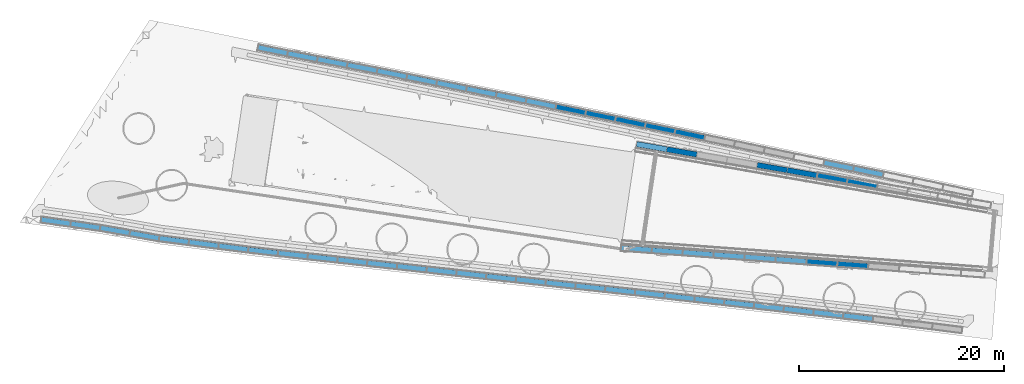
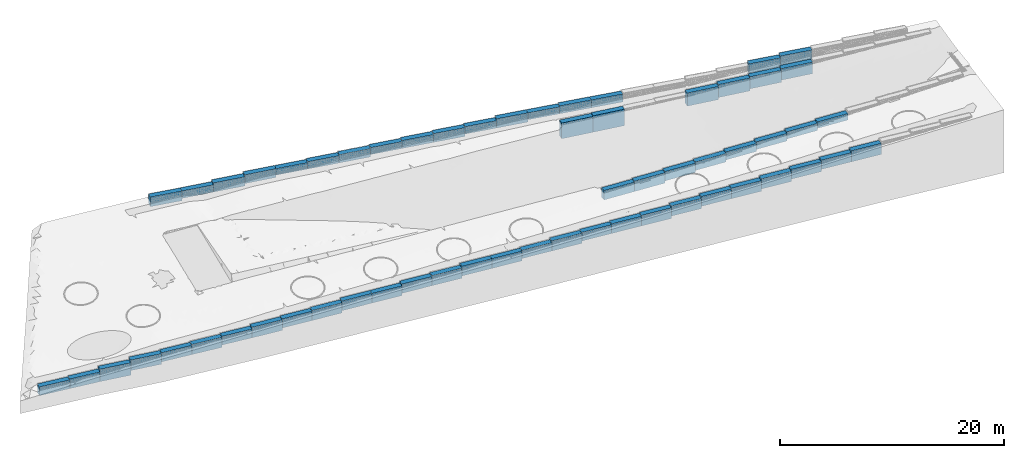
# Not in any storey, part 5 of 46: 59 walls.
"""IFC4 model written with IfcOpenShell, lengths in metres."""

from ifc_helpers import new_model, si_unit, direction, frame, origin_with_axes, place, context, subcontext, project, spatial, polyline, outline, extrude, material, element, save


model = new_model("IFC4")

# Units and contexts
model_context = context("Model", 3, precision=1e-05, world=origin_with_axes(), true_north=direction((0.0, 1.0)))
body_context = subcontext(model_context, "Body", "Model", "MODEL_VIEW")
ifc_project = project(units=[si_unit("VOLUMEUNIT", "CUBIC_METRE"), si_unit("LENGTHUNIT", "METRE"), si_unit("AREAUNIT", "SQUARE_METRE")], contexts=[model_context])

# Site
site_placement = place(None, origin_with_axes())
site = spatial("IfcSite", under=ifc_project, at=site_placement, Name="Lares · Rua das Mercês · artigo 4771")

# Walls
ifc_material = material(Name="Gabião · enchimento", Category="stone")
wall_1_placement = place(site_placement, frame((0.0, 0.0, 13.43), z_axis=(0.0, 0.0, 1.0), x_axis=(1.0, -1.03767253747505e-17, 0.0)))
element("IfcWall", 1, at=wall_1_placement, inside=site, material=ifc_material, Name="Acesso · gabião -1 0.0 · núcleo de pedra", ObjectType="Acesso · gabião -1 0.0 · núcleo de pedra", PredefinedType="USERDEFINED", context=body_context, shape_type="SweptSolid", body=[
    extrude(outline(polyline([(49.5509177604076, 2.43377645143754), (49.5120257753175, 1.90520534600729), (46.4964454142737, 2.12709016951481), (46.5353373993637, 2.65566127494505), (49.5509177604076, 2.43377645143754)])), origin_with_axes(), (0.0, 0.0, 1.0), 1.01900584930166),
])
wall_2_placement = place(site_placement, frame((0.0, 0.0, 13.43), z_axis=(0.0, 0.0, 1.0), x_axis=(1.0, -1.03767253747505e-17, 0.0)))
element("IfcWall", 2, at=wall_2_placement, inside=site, material=ifc_material, Name="Acesso · gabião -1 3.0 · núcleo de pedra", ObjectType="Acesso · gabião -1 3.0 · núcleo de pedra", PredefinedType="USERDEFINED", context=body_context, shape_type="SweptSolid", body=[
    extrude(outline(polyline([(52.5666966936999, 2.2118721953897), (52.5278038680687, 1.6833011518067), (49.5120253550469, 1.90520537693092), (49.5509181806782, 2.43377642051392), (52.5666966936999, 2.2118721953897)])), origin_with_axes(), (0.0, 0.0, 1.0), 1.12563008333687),
])
wall_3_placement = place(site_placement, frame((0.0, 0.0, 13.6644580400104), z_axis=(0.0, 0.0, 1.0), x_axis=(1.0, -1.03767253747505e-17, 0.0)))
element("IfcWall", 3, at=wall_3_placement, inside=site, material=ifc_material, Name="Acesso · gabião -1 6.0 · núcleo de pedra", ObjectType="Acesso · gabião -1 6.0 · núcleo de pedra", PredefinedType="USERDEFINED", context=body_context, shape_type="SweptSolid", body=[
    extrude(outline(polyline([(55.5826966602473, 1.98994747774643), (55.5438031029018, 1.46137648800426), (52.5278035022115, 1.68330117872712), (52.566697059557, 2.21187216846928), (55.5826966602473, 1.98994747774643)])), origin_with_axes(), (0.0, 0.0, 1.0), 1.01398849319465),
])
wall_4_placement = place(site_placement, frame((0.0, 0.0, 13.8878321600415), z_axis=(0.0, 0.0, 1.0), x_axis=(1.0, -1.03767253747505e-17, 0.0)))
element("IfcWall", 4, at=wall_4_placement, inside=site, material=ifc_material, Name="Acesso · gabião -1 9.0 · núcleo de pedra", ObjectType="Acesso · gabião -1 9.0 · núcleo de pedra", PredefinedType="USERDEFINED", context=body_context, shape_type="SweptSolid", body=[
    extrude(outline(polyline([(58.5989442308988, 1.76800126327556), (58.560050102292, 1.23943031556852), (55.5438028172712, 1.46137650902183), (55.582696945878, 1.98994745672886), (58.5989442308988, 1.76800126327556)])), origin_with_axes(), (0.0, 0.0, 1.0), 0.915418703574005),
])
wall_5_placement = place(site_placement, frame((0.0, 0.0, 14.1112062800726), z_axis=(0.0, 0.0, 1.0), x_axis=(1.0, -1.03767253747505e-17, 0.0)))
element("IfcWall", 5, at=wall_5_placement, inside=site, material=ifc_material, Name="Acesso · gabião -1 12.0 · núcleo de pedra", ObjectType="Acesso · gabião -1 12.0 · núcleo de pedra", PredefinedType="USERDEFINED", context=body_context, shape_type="SweptSolid", body=[
    extrude(outline(polyline([(61.615470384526, 1.54603259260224), (61.5765759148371, 1.01746166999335), (58.5600499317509, 1.23943032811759), (58.5989444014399, 1.76800125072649), (61.615470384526, 1.54603259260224)])), origin_with_axes(), (0.0, 0.0, 1.0), 0.866037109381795),
])
wall_6_placement = place(site_placement, frame((0.0, 0.0, 14.3345804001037), z_axis=(0.0, 0.0, 1.0), x_axis=(1.0, -1.03767253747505e-17, 0.0)))
element("IfcWall", 6, at=wall_6_placement, inside=site, material=ifc_material, Name="Acesso · gabião -1 15.0 · núcleo de pedra", ObjectType="Acesso · gabião -1 15.0 · núcleo de pedra", PredefinedType="USERDEFINED", context=body_context, shape_type="SweptSolid", body=[
    extrude(outline(polyline([(64.6323114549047, 1.32404065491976), (64.5934169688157, 0.795469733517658), (61.576575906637, 1.01746167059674), (61.6154703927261, 1.54603259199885), (64.6323114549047, 1.32404065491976)])), origin_with_axes(), (0.0, 0.0, 1.0), 0.817839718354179),
])
wall_7_placement = place(site_placement, frame((0.0, 0.0, 14.5579545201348), z_axis=(0.0, 0.0, 1.0), x_axis=(1.0, -1.03767253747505e-17, 0.0)))
element("IfcWall", 7, at=wall_7_placement, inside=site, material=ifc_material, Name="Acesso · gabião -1 18.0 · núcleo de pedra", ObjectType="Acesso · gabião -1 18.0 · núcleo de pedra", PredefinedType="USERDEFINED", context=body_context, shape_type="SweptSolid", body=[
    extrude(outline(polyline([(67.6495103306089, 1.10202489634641), (67.6106162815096, 0.573453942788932), (64.5934171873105, 0.795469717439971), (64.6323112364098, 1.32404067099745), (67.6495103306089, 1.10202489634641)])), origin_with_axes(), (0.0, 0.0, 1.0), 0.769663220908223),
])
wall_8_placement = place(site_placement, frame((0.0, 0.0, 14.7813286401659), z_axis=(0.0, 0.0, 1.0), x_axis=(1.0, -1.03767253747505e-17, 0.0)))
element("IfcWall", 8, at=wall_8_placement, inside=site, material=ifc_material, Name="Acesso · gabião -1 21.0 · núcleo de pedra", ObjectType="Acesso · gabião -1 21.0 · núcleo de pedra", PredefinedType="USERDEFINED", context=body_context, shape_type="SweptSolid", body=[
    extrude(outline(polyline([(70.6671179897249, 0.879985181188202), (70.6282250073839, 0.3514141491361), (67.6106168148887, 0.57345390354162), (67.6495097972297, 1.10202493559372), (70.6671179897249, 0.879985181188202)])), origin_with_axes(), (0.0, 0.0, 1.0), 0.700067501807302),
])
wall_9_placement = place(site_placement, frame((0.0, 0.0, 13.43), z_axis=(0.0, 0.0, 1.0), x_axis=(1.0, -1.03767253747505e-17, 0.0)))
element("IfcWall", 9, at=wall_9_placement, inside=site, material=ifc_material, Name="Acesso · gabião 1 0.0 · núcleo de pedra", ObjectType="Acesso · gabião 1 0.0 · núcleo de pedra", PredefinedType="USERDEFINED", context=body_context, shape_type="SweptSolid", body=[
    extrude(outline(polyline([(51.0143480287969, 12.2692739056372), (50.9236249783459, 11.7470964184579), (47.9840982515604, 12.2578094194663), (48.0748213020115, 12.7799869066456), (51.0143480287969, 12.2692739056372)])), origin_with_axes(), (0.0, 0.0, 1.0), 1.71673606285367),
])
wall_10_placement = place(site_placement, frame((0.0, 0.0, 13.43), z_axis=(0.0, 0.0, 1.0), x_axis=(1.0, -1.03767253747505e-17, 0.0)))
element("IfcWall", 10, at=wall_10_placement, inside=site, material=ifc_material, Name="Acesso · gabião 1 3.0 · núcleo de pedra", ObjectType="Acesso · gabião 1 3.0 · núcleo de pedra", PredefinedType="USERDEFINED", context=body_context, shape_type="SweptSolid", body=[
    extrude(outline(polyline([(53.953677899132, 11.7585800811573), (53.8629522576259, 11.2364030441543), (50.9236236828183, 11.747096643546), (51.0143493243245, 12.2692736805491), (53.953677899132, 11.7585800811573)])), origin_with_axes(), (0.0, 0.0, 1.0), 1.78875919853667),
])
wall_11_placement = place(site_placement, frame((0.0, 0.0, 14.1112062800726), z_axis=(0.0, 0.0, 1.0), x_axis=(1.0, -1.03767253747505e-17, 0.0)))
element("IfcWall", 11, at=wall_11_placement, inside=site, material=ifc_material, Name="Acesso · gabião 1 12.0 · núcleo de pedra", ObjectType="Acesso · gabião 1 12.0 · núcleo de pedra", PredefinedType="USERDEFINED", context=body_context, shape_type="SweptSolid", body=[
    extrude(outline(polyline([(62.7702319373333, 10.2266251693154), (62.6794950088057, 9.70445009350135), (59.7409139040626, 10.2150792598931), (59.8316508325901, 10.7372543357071), (62.7702319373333, 10.2266251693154)])), origin_with_axes(), (0.0, 0.0, 1.0), 1.42587664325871),
])
wall_12_placement = place(site_placement, frame((0.0, 0.0, 14.3345804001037), z_axis=(0.0, 0.0, 1.0), x_axis=(1.0, -1.03767253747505e-17, 0.0)))
element("IfcWall", 12, at=wall_12_placement, inside=site, material=ifc_material, Name="Acesso · gabião 1 15.0 · núcleo de pedra", ObjectType="Acesso · gabião 1 15.0 · núcleo de pedra", PredefinedType="USERDEFINED", context=body_context, shape_type="SweptSolid", body=[
    extrude(outline(polyline([(65.708500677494, 9.71601881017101), (65.6177583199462, 9.193844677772), (62.6794922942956, 9.70445056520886), (62.7702346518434, 10.2266246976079), (65.708500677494, 9.71601881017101)])), origin_with_axes(), (0.0, 0.0, 1.0), 1.40283963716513),
])
wall_13_placement = place(site_placement, frame((0.0, 0.0, 14.5579545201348), z_axis=(0.0, 0.0, 1.0), x_axis=(1.0, -1.03767253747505e-17, 0.0)))
element("IfcWall", 13, at=wall_13_placement, inside=site, material=ifc_material, Name="Acesso · gabião 1 18.0 · núcleo de pedra", ObjectType="Acesso · gabião 1 18.0 · núcleo de pedra", PredefinedType="USERDEFINED", context=body_context, shape_type="SweptSolid", body=[
    extrude(outline(polyline([(68.6464119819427, 9.20543618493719), (68.555663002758, 8.68326320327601), (65.6177550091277, 9.19384525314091), (65.7085039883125, 9.71601823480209), (68.6464119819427, 9.20543618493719)])), origin_with_axes(), (0.0, 0.0, 1.0), 1.30621625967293),
])
wall_14_placement = place(site_placement, frame((0.0, 0.0, 14.7813286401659), z_axis=(0.0, 0.0, 1.0), x_axis=(1.0, -1.03767253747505e-17, 0.0)))
element("IfcWall", 14, at=wall_14_placement, inside=site, material=ifc_material, Name="Acesso · gabião 1 21.0 · núcleo de pedra", ObjectType="Acesso · gabião 1 21.0 · núcleo de pedra", PredefinedType="USERDEFINED", context=body_context, shape_type="SweptSolid", body=[
    extrude(outline(polyline([(71.5839149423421, 8.69487740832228), (71.4931578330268, 8.17270583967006), (68.5556589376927, 8.68326390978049), (68.6464160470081, 9.20543547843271), (71.5839149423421, 8.69487740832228)])), origin_with_axes(), (0.0, 0.0, 1.0), 1.25118277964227),
])
wall_15_placement = place(site_placement, frame((0.0, 0.0, 13.25), z_axis=(0.0, 0.0, 1.0), x_axis=(1.0, -1.03767253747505e-17, 0.0)))
element("IfcWall", 15, at=wall_15_placement, inside=site, material=ifc_material, Name="Limite north · gabião 4 · núcleo de pedra", ObjectType="Limite north · gabião 4 · núcleo de pedra", PredefinedType="USERDEFINED", context=body_context, shape_type="SweptSolid", body=[
    extrude(outline(polyline([(13.9459810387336, 21.6283738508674), (14.0549092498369, 21.6074246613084), (13.954813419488, 21.0869625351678), (13.8442172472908, 21.1082325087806), (13.8408855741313, 21.1088954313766), (11.0468891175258, 21.6834743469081), (11.1536482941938, 22.2026106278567), (13.9459810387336, 21.6283738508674)])), origin_with_axes(), (0.0, 0.0, 1.0), 1.05),
])
wall_16_placement = place(site_placement, frame((0.0, 0.0, 13.5), z_axis=(0.0, 0.0, 1.0), x_axis=(1.0, -1.03767253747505e-17, 0.0)))
element("IfcWall", 16, at=wall_16_placement, inside=site, material=ifc_material, Name="Limite north · gabião 5 · núcleo de pedra", ObjectType="Limite north · gabião 5 · núcleo de pedra", PredefinedType="USERDEFINED", context=body_context, shape_type="SweptSolid", body=[
    extrude(outline(polyline([(16.9666375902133, 21.0474379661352), (16.8665417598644, 20.5269758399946), (13.954813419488, 21.0869625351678), (14.0549092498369, 21.6074246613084), (16.9666375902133, 21.0474379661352)])), origin_with_axes(), (0.0, 0.0, 1.0), 0.800000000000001),
])
wall_17_placement = place(site_placement, frame((0.0, 0.0, 13.5), z_axis=(0.0, 0.0, 1.0), x_axis=(1.0, -1.03767253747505e-17, 0.0)))
element("IfcWall", 17, at=wall_17_placement, inside=site, material=ifc_material, Name="Limite north · gabião 6 · núcleo de pedra", ObjectType="Limite north · gabião 6 · núcleo de pedra", PredefinedType="USERDEFINED", context=body_context, shape_type="SweptSolid", body=[
    extrude(outline(polyline([(19.8783659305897, 20.487451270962), (19.7782701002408, 19.9669891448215), (16.8665417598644, 20.5269758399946), (16.9666375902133, 21.0474379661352), (19.8783659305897, 20.487451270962)])), origin_with_axes(), (0.0, 0.0, 1.0), 1.0),
])
wall_18_placement = place(site_placement, frame((0.0, 0.0, 13.75), z_axis=(0.0, 0.0, 1.0), x_axis=(1.0, -1.03767253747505e-17, 0.0)))
element("IfcWall", 18, at=wall_18_placement, inside=site, material=ifc_material, Name="Limite north · gabião 7 · núcleo de pedra", ObjectType="Limite north · gabião 7 · núcleo de pedra", PredefinedType="USERDEFINED", context=body_context, shape_type="SweptSolid", body=[
    extrude(outline(polyline([(21.9983013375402, 20.0797430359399), (22.0008751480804, 20.0792348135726), (22.7911217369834, 19.9191251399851), (22.6858782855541, 19.3996794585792), (21.896917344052, 19.5595286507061), (19.7782701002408, 19.9669891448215), (19.8783659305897, 20.487451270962), (21.9983013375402, 20.0797430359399)])), origin_with_axes(), (0.0, 0.0, 1.0), 0.950000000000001),
])
wall_19_placement = place(site_placement, frame((0.0, 0.0, 14.0), z_axis=(0.0, 0.0, 1.0), x_axis=(1.0, -1.03767253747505e-17, 0.0)))
element("IfcWall", 19, at=wall_19_placement, inside=site, material=ifc_material, Name="Limite north · gabião 8 · núcleo de pedra", ObjectType="Limite north · gabião 8 · núcleo de pedra", PredefinedType="USERDEFINED", context=body_context, shape_type="SweptSolid", body=[
    extrude(outline(polyline([(25.6971635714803, 19.3303400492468), (25.5919201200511, 18.8108943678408), (22.6858782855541, 19.3996794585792), (22.7911217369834, 19.9191251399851), (25.6971635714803, 19.3303400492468)])), origin_with_axes(), (0.0, 0.0, 1.0), 0.700000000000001),
])
wall_20_placement = place(site_placement, frame((0.0, 0.0, 14.0), z_axis=(0.0, 0.0, 1.0), x_axis=(1.0, -1.03767253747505e-17, 0.0)))
element("IfcWall", 20, at=wall_20_placement, inside=site, material=ifc_material, Name="Limite north · gabião 9 · núcleo de pedra", ObjectType="Limite north · gabião 9 · núcleo de pedra", PredefinedType="USERDEFINED", context=body_context, shape_type="SweptSolid", body=[
    extrude(outline(polyline([(27.7595237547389, 18.9124909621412), (28.6029361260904, 18.7442291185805), (28.49924383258, 18.2244715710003), (27.6554435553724, 18.392810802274), (27.6546679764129, 18.3929667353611), (25.5919201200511, 18.8108943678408), (25.6971635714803, 19.3303400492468), (27.7595237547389, 18.9124909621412)])), origin_with_axes(), (0.0, 0.0, 1.0), 0.800000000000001),
])
wall_21_placement = place(site_placement, frame((0.0, 0.0, 14.0), z_axis=(0.0, 0.0, 1.0), x_axis=(1.0, -1.03767253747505e-17, 0.0)))
element("IfcWall", 21, at=wall_21_placement, inside=site, material=ifc_material, Name="Limite north · gabião 10 · núcleo de pedra", ObjectType="Limite north · gabião 10 · núcleo de pedra", PredefinedType="USERDEFINED", context=body_context, shape_type="SweptSolid", body=[
    extrude(outline(polyline([(31.5107226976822, 18.1641219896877), (31.4070304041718, 17.6443644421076), (28.49924383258, 18.2244715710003), (28.6029361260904, 18.7442291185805), (31.5107226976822, 18.1641219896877)])), origin_with_axes(), (0.0, 0.0, 1.0), 0.9),
])
wall_22_placement = place(site_placement, frame((0.0, 0.0, 14.25), z_axis=(0.0, 0.0, 1.0), x_axis=(1.0, -1.03767253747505e-17, 0.0)))
element("IfcWall", 22, at=wall_22_placement, inside=site, material=ifc_material, Name="Limite north · gabião 11 · núcleo de pedra", ObjectType="Limite north · gabião 11 · núcleo de pedra", PredefinedType="USERDEFINED", context=body_context, shape_type="SweptSolid", body=[
    extrude(outline(polyline([(34.418509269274, 17.584014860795), (34.3148169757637, 17.0642573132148), (31.4070304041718, 17.6443644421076), (31.5107226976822, 18.1641219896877), (34.418509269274, 17.584014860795)])), origin_with_axes(), (0.0, 0.0, 1.0), 0.75),
])
wall_23_placement = place(site_placement, frame((0.0, 0.0, 14.25), z_axis=(0.0, 0.0, 1.0), x_axis=(1.0, -1.03767253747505e-17, 0.0)))
element("IfcWall", 23, at=wall_23_placement, inside=site, material=ifc_material, Name="Limite north · gabião 12 · núcleo de pedra", ObjectType="Limite north · gabião 12 · núcleo de pedra", PredefinedType="USERDEFINED", context=body_context, shape_type="SweptSolid", body=[
    extrude(outline(polyline([(36.5810808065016, 17.1525790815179), (36.5823908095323, 17.152314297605), (37.326846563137, 16.9998864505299), (37.2205342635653, 16.4806584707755), (36.476733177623, 16.6329522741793), (34.3148169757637, 17.0642573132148), (34.418509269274, 17.584014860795), (36.5810808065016, 17.1525790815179)])), origin_with_axes(), (0.0, 0.0, 1.0), 0.850000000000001),
])
wall_24_placement = place(site_placement, frame((0.0, 0.0, 14.25), z_axis=(0.0, 0.0, 1.0), x_axis=(1.0, -1.03767253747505e-17, 0.0)))
element("IfcWall", 24, at=wall_24_placement, inside=site, material=ifc_material, Name="Limite north · gabião 13 · núcleo de pedra", ObjectType="Limite north · gabião 13 · núcleo de pedra", PredefinedType="USERDEFINED", context=body_context, shape_type="SweptSolid", body=[
    extrude(outline(polyline([(40.2316704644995, 16.4051216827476), (40.1253581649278, 15.8858937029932), (37.2205342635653, 16.4806584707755), (37.326846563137, 16.9998864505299), (40.2316704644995, 16.4051216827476)])), origin_with_axes(), (0.0, 0.0, 1.0), 0.950000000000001),
])
wall_25_placement = place(site_placement, frame((0.0, 0.0, 14.5), z_axis=(0.0, 0.0, 1.0), x_axis=(1.0, -1.03767253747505e-17, 0.0)))
element("IfcWall", 25, at=wall_25_placement, inside=site, material=ifc_material, Name="Limite north · gabião 14 · núcleo de pedra", ObjectType="Limite north · gabião 14 · núcleo de pedra", PredefinedType="USERDEFINED", context=body_context, shape_type="SweptSolid", body=[
    extrude(outline(polyline([(43.136494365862, 15.8103569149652), (43.0301820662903, 15.2911289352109), (40.1253581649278, 15.8858937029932), (40.2316704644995, 16.4051216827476), (43.136494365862, 15.8103569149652)])), origin_with_axes(), (0.0, 0.0, 1.0), 0.800000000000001),
])
wall_26_placement = place(site_placement, frame((0.0, 0.0, 14.5), z_axis=(0.0, 0.0, 1.0), x_axis=(1.0, -1.03767253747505e-17, 0.0)))
element("IfcWall", 26, at=wall_26_placement, inside=site, material=ifc_material, Name="Limite north · gabião 15 · núcleo de pedra", ObjectType="Limite north · gabião 15 · núcleo de pedra", PredefinedType="USERDEFINED", context=body_context, shape_type="SweptSolid", body=[
    extrude(outline(polyline([(46.0413182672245, 15.2155921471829), (45.9350059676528, 14.6963641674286), (43.0301820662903, 15.2911289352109), (43.136494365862, 15.8103569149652), (46.0413182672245, 15.2155921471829)])), origin_with_axes(), (0.0, 0.0, 1.0), 1.0),
])
wall_27_placement = place(site_placement, frame((0.0, 0.0, 14.75), z_axis=(0.0, 0.0, 1.0), x_axis=(1.0, -1.03767253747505e-17, 0.0)))
element("IfcWall", 27, at=wall_27_placement, inside=site, material=ifc_material, Name="Limite north · gabião 16 · núcleo de pedra", ObjectType="Limite north · gabião 16 · núcleo de pedra", PredefinedType="USERDEFINED", context=body_context, shape_type="SweptSolid", body=[
    extrude(outline(polyline([(46.0688101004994, 15.2099631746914), (46.0700833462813, 15.2096992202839), (48.9444899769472, 14.6064518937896), (48.8356311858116, 14.0877518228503), (45.9618608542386, 14.6908656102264), (45.9350059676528, 14.6963641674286), (46.0413182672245, 15.2155921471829), (46.0688101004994, 15.2099631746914)])), origin_with_axes(), (0.0, 0.0, 1.0), 0.75),
])
wall_28_placement = place(site_placement, frame((0.0, 0.0, 14.75), z_axis=(0.0, 0.0, 1.0), x_axis=(1.0, -1.03767253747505e-17, 0.0)))
element("IfcWall", 28, at=wall_28_placement, inside=site, material=ifc_material, Name="Limite north · gabião 17 · núcleo de pedra", ObjectType="Limite north · gabião 17 · núcleo de pedra", PredefinedType="USERDEFINED", context=body_context, shape_type="SweptSolid", body=[
    extrude(outline(polyline([(51.846360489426, 13.9974407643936), (51.7375016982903, 13.4787406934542), (48.8356311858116, 14.0877518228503), (48.9444899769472, 14.6064518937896), (51.846360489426, 13.9974407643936)])), origin_with_axes(), (0.0, 0.0, 1.0), 0.850000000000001),
])
wall_29_placement = place(site_placement, frame((0.0, 0.0, 14.75), z_axis=(0.0, 0.0, 1.0), x_axis=(1.0, -1.03767253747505e-17, 0.0)))
element("IfcWall", 29, at=wall_29_placement, inside=site, material=ifc_material, Name="Limite north · gabião 18 · núcleo de pedra", ObjectType="Limite north · gabião 18 · núcleo de pedra", PredefinedType="USERDEFINED", context=body_context, shape_type="SweptSolid", body=[
    extrude(outline(polyline([(54.7482310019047, 13.3884296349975), (54.6393722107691, 12.8697295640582), (51.7375016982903, 13.4787406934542), (51.846360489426, 13.9974407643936), (54.7482310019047, 13.3884296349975)])), origin_with_axes(), (0.0, 0.0, 1.0), 0.850000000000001),
])
wall_30_placement = place(site_placement, frame((0.0, 0.0, 15.25), z_axis=(0.0, 0.0, 1.0), x_axis=(1.0, -1.03767253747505e-17, 0.0)))
element("IfcWall", 30, at=wall_30_placement, inside=site, material=ifc_material, Name="Limite north · gabião 23 · núcleo de pedra", ObjectType="Limite north · gabião 23 · núcleo de pedra", PredefinedType="USERDEFINED", context=body_context, shape_type="SweptSolid", body=[
    extrude(outline(polyline([(69.2593457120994, 10.3625658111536), (69.1545580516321, 9.84302799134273), (66.2480007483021, 10.4292631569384), (66.3527884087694, 10.9488009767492), (69.2593457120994, 10.3625658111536)])), origin_with_axes(), (0.0, 0.0, 1.0), 1.05),
])
wall_31_placement = place(site_placement, frame((0.0, 0.0, 15.5), z_axis=(0.0, 0.0, 1.0), x_axis=(1.0, -1.03767253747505e-17, 0.0)))
element("IfcWall", 31, at=wall_31_placement, inside=site, material=ifc_material, Name="Limite north · gabião 24 · núcleo de pedra", ObjectType="Limite north · gabião 24 · núcleo de pedra", PredefinedType="USERDEFINED", context=body_context, shape_type="SweptSolid", body=[
    extrude(outline(polyline([(72.1659030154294, 9.77633064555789), (72.0611153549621, 9.25679282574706), (69.1545580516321, 9.84302799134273), (69.2593457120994, 10.3625658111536), (72.1659030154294, 9.77633064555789)])), origin_with_axes(), (0.0, 0.0, 1.0), 1.0),
])
wall_32_placement = place(site_placement, frame((0.0, 0.0, 10.25), z_axis=(0.0, 0.0, 1.0), x_axis=(1.0, -1.03767253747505e-17, 0.0)))
element("IfcWall", 32, at=wall_32_placement, inside=site, material=ifc_material, Name="Limite south · gabião 1 · núcleo de pedra", ObjectType="Limite south · gabião 1 · núcleo de pedra", PredefinedType="USERDEFINED", context=body_context, shape_type="SweptSolid", body=[
    extrude(outline(polyline([(-7.12131503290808, 5.00047159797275), (-7.19516742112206, 4.4756422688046), (-10.0859988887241, 4.88243128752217), (-10.0121465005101, 5.40726061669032), (-7.12131503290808, 5.00047159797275)])), origin_with_axes(), (0.0, 0.0, 1.0), 0.950000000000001),
])
wall_33_placement = place(site_placement, frame((0.0, 0.0, 10.25), z_axis=(0.0, 0.0, 1.0), x_axis=(1.0, -1.03767253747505e-17, 0.0)))
element("IfcWall", 33, at=wall_33_placement, inside=site, material=ifc_material, Name="Limite south · gabião 2 · núcleo de pedra", ObjectType="Limite south · gabião 2 · núcleo de pedra", PredefinedType="USERDEFINED", context=body_context, shape_type="SweptSolid", body=[
    extrude(outline(polyline([(-4.23048356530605, 4.59368257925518), (-4.30433595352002, 4.06885325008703), (-7.19516742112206, 4.4756422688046), (-7.12131503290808, 5.00047159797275), (-4.23048356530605, 4.59368257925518)])), origin_with_axes(), (0.0, 0.0, 1.0), 1.05),
])
wall_34_placement = place(site_placement, frame((0.0, 0.0, 10.25), z_axis=(0.0, 0.0, 1.0), x_axis=(1.0, -1.03767253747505e-17, 0.0)))
element("IfcWall", 34, at=wall_34_placement, inside=site, material=ifc_material, Name="Limite south · gabião 3 · núcleo de pedra", ObjectType="Limite south · gabião 3 · núcleo de pedra", PredefinedType="USERDEFINED", context=body_context, shape_type="SweptSolid", body=[
    extrude(outline(polyline([(-4.13330984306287, 4.58000858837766), (-4.12415688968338, 4.57855697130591), (-1.34595301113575, 4.08799990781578), (-1.43811130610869, 3.56607381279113), (-4.21175140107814, 4.0558250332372), (-4.30433595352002, 4.06885325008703), (-4.23048356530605, 4.59368257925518), (-4.13330984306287, 4.58000858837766)])), origin_with_axes(), (0.0, 0.0, 1.0), 1.35),
])
wall_35_placement = place(site_placement, frame((0.0, 0.0, 10.75), z_axis=(0.0, 0.0, 1.0), x_axis=(1.0, -1.03767253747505e-17, 0.0)))
element("IfcWall", 35, at=wall_35_placement, inside=site, material=ifc_material, Name="Limite south · gabião 4 · núcleo de pedra", ObjectType="Limite south · gabião 4 · núcleo de pedra", PredefinedType="USERDEFINED", context=body_context, shape_type="SweptSolid", body=[
    extrude(outline(polyline([(1.52888704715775, 3.58037945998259), (1.43672875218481, 3.05845336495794), (-1.43811130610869, 3.56607381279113), (-1.34595301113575, 4.08799990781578), (1.52888704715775, 3.58037945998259)])), origin_with_axes(), (0.0, 0.0, 1.0), 1.15),
])
wall_36_placement = place(site_placement, frame((0.0, 0.0, 11.0), z_axis=(0.0, 0.0, 1.0), x_axis=(1.0, -1.03767253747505e-17, 0.0)))
element("IfcWall", 36, at=wall_36_placement, inside=site, material=ifc_material, Name="Limite south · gabião 5 · núcleo de pedra", ObjectType="Limite south · gabião 5 · núcleo de pedra", PredefinedType="USERDEFINED", context=body_context, shape_type="SweptSolid", body=[
    extrude(outline(polyline([(1.58401702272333, 3.57064496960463), (4.41182804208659, 3.21260346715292), (4.34525393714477, 2.68680132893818), (1.51102320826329, 3.04565565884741), (1.49823111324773, 3.04759368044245), (1.43672875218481, 3.05845336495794), (1.52888704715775, 3.58037945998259), (1.58401702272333, 3.57064496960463)])), origin_with_axes(), (0.0, 0.0, 1.0), 1.0),
])
wall_37_placement = place(site_placement, frame((0.0, 0.0, 11.0), z_axis=(0.0, 0.0, 1.0), x_axis=(1.0, -1.03767253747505e-17, 0.0)))
element("IfcWall", 37, at=wall_37_placement, inside=site, material=ifc_material, Name="Limite south · gabião 6 · núcleo de pedra", ObjectType="Limite south · gabião 6 · núcleo de pedra", PredefinedType="USERDEFINED", context=body_context, shape_type="SweptSolid", body=[
    extrude(outline(polyline([(7.30801787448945, 2.8459042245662), (7.24144376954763, 2.32010208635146), (4.34525393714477, 2.68680132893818), (4.41182804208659, 3.21260346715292), (7.30801787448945, 2.8459042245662)])), origin_with_axes(), (0.0, 0.0, 1.0), 1.1),
])
wall_38_placement = place(site_placement, frame((0.0, 0.0, 11.25), z_axis=(0.0, 0.0, 1.0), x_axis=(1.0, -1.03767253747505e-17, 0.0)))
element("IfcWall", 38, at=wall_38_placement, inside=site, material=ifc_material, Name="Limite south · gabião 7 · núcleo de pedra", ObjectType="Limite south · gabião 7 · núcleo de pedra", PredefinedType="USERDEFINED", context=body_context, shape_type="SweptSolid", body=[
    extrude(outline(polyline([(10.2042077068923, 2.47920498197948), (10.1376336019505, 1.95340284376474), (7.24144376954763, 2.32010208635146), (7.30801787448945, 2.8459042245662), (10.2042077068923, 2.47920498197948)])), origin_with_axes(), (0.0, 0.0, 1.0), 0.950000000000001),
])
wall_39_placement = place(site_placement, frame((0.0, 0.0, 11.25), z_axis=(0.0, 0.0, 1.0), x_axis=(1.0, -1.03767253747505e-17, 0.0)))
element("IfcWall", 39, at=wall_39_placement, inside=site, material=ifc_material, Name="Limite south · gabião 8 · núcleo de pedra", ObjectType="Limite south · gabião 8 · núcleo de pedra", PredefinedType="USERDEFINED", context=body_context, shape_type="SweptSolid", body=[
    extrude(outline(polyline([(11.1435488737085, 2.36027089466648), (13.0998900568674, 2.14458601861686), (13.0418099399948, 1.61777798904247), (11.0833432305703, 1.83369720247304), (11.0790962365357, 1.83420014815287), (10.1376336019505, 1.95340284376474), (10.2042077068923, 2.47920498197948), (11.1435488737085, 2.36027089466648)])), origin_with_axes(), (0.0, 0.0, 1.0), 1.15),
])
wall_40_placement = place(site_placement, frame((0.0, 0.0, 11.5), z_axis=(0.0, 0.0, 1.0), x_axis=(1.0, -1.03767253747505e-17, 0.0)))
element("IfcWall", 40, at=wall_40_placement, inside=site, material=ifc_material, Name="Limite south · gabião 9 · núcleo de pedra", ObjectType="Limite south · gabião 9 · núcleo de pedra", PredefinedType="USERDEFINED", context=body_context, shape_type="SweptSolid", body=[
    extrude(outline(polyline([(16.0016204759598, 1.82467281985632), (15.9435403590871, 1.29786479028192), (13.0418099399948, 1.61777798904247), (13.0998900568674, 2.14458601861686), (16.0016204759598, 1.82467281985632)])), origin_with_axes(), (0.0, 0.0, 1.0), 1.0),
])
wall_41_placement = place(site_placement, frame((0.0, 0.0, 11.5), z_axis=(0.0, 0.0, 1.0), x_axis=(1.0, -1.03767253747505e-17, 0.0)))
element("IfcWall", 41, at=wall_41_placement, inside=site, material=ifc_material, Name="Limite south · gabião 10 · núcleo de pedra", ObjectType="Limite south · gabião 10 · núcleo de pedra", PredefinedType="USERDEFINED", context=body_context, shape_type="SweptSolid", body=[
    extrude(outline(polyline([(18.9033508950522, 1.50475962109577), (18.8452707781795, 0.97795159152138), (15.9435403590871, 1.29786479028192), (16.0016204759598, 1.82467281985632), (18.9033508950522, 1.50475962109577)])), origin_with_axes(), (0.0, 0.0, 1.0), 1.1),
])
wall_42_placement = place(site_placement, frame((0.0, 0.0, 11.75), z_axis=(0.0, 0.0, 1.0), x_axis=(1.0, -1.03767253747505e-17, 0.0)))
element("IfcWall", 42, at=wall_42_placement, inside=site, material=ifc_material, Name="Limite south · gabião 11 · núcleo de pedra", ObjectType="Limite south · gabião 11 · núcleo de pedra", PredefinedType="USERDEFINED", context=body_context, shape_type="SweptSolid", body=[
    extrude(outline(polyline([(21.8050813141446, 1.18484642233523), (21.7470011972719, 0.658038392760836), (18.8452707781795, 0.97795159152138), (18.9033508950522, 1.50475962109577), (21.8050813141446, 1.18484642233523)])), origin_with_axes(), (0.0, 0.0, 1.0), 1.05),
])
wall_43_placement = place(site_placement, frame((0.0, 0.0, 11.75), z_axis=(0.0, 0.0, 1.0), x_axis=(1.0, -1.03767253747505e-17, 0.0)))
element("IfcWall", 43, at=wall_43_placement, inside=site, material=ifc_material, Name="Limite south · gabião 12 · núcleo de pedra", ObjectType="Limite south · gabião 12 · núcleo de pedra", PredefinedType="USERDEFINED", context=body_context, shape_type="SweptSolid", body=[
    extrude(outline(polyline([(23.5374462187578, 0.993854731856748), (23.5377683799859, 0.993819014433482), (24.7069753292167, 0.863467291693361), (24.6482508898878, 0.336730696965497), (23.4792050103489, 0.467064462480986), (21.7470011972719, 0.658038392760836), (21.8050813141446, 1.18484642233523), (23.5374462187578, 0.993854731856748)])), origin_with_axes(), (0.0, 0.0, 1.0), 1.05),
])
wall_44_placement = place(site_placement, frame((0.0, 0.0, 12.0), z_axis=(0.0, 0.0, 1.0), x_axis=(1.0, -1.03767253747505e-17, 0.0)))
element("IfcWall", 44, at=wall_44_placement, inside=site, material=ifc_material, Name="Limite south · gabião 13 · núcleo de pedra", ObjectType="Limite south · gabião 13 · núcleo de pedra", PredefinedType="USERDEFINED", context=body_context, shape_type="SweptSolid", body=[
    extrude(outline(polyline([(27.6083122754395, 0.540005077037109), (27.5495878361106, 0.0132684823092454), (24.6482508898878, 0.336730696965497), (24.7069753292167, 0.863467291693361), (27.6083122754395, 0.540005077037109)])), origin_with_axes(), (0.0, 0.0, 1.0), 1.0),
])
wall_45_placement = place(site_placement, frame((0.0, 0.0, 12.0), z_axis=(0.0, 0.0, 1.0), x_axis=(1.0, -1.03767253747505e-17, 0.0)))
element("IfcWall", 45, at=wall_45_placement, inside=site, material=ifc_material, Name="Limite south · gabião 14 · núcleo de pedra", ObjectType="Limite south · gabião 14 · núcleo de pedra", PredefinedType="USERDEFINED", context=body_context, shape_type="SweptSolid", body=[
    extrude(outline(polyline([(30.5096492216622, 0.216542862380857), (30.4509247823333, -0.310193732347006), (27.5495878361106, 0.0132684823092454), (27.6083122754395, 0.540005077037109), (30.5096492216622, 0.216542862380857)])), origin_with_axes(), (0.0, 0.0, 1.0), 1.1),
])
wall_46_placement = place(site_placement, frame((0.0, 0.0, 12.25), z_axis=(0.0, 0.0, 1.0), x_axis=(1.0, -1.03767253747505e-17, 0.0)))
element("IfcWall", 46, at=wall_46_placement, inside=site, material=ifc_material, Name="Limite south · gabião 15 · núcleo de pedra", ObjectType="Limite south · gabião 15 · núcleo de pedra", PredefinedType="USERDEFINED", context=body_context, shape_type="SweptSolid", body=[
    extrude(outline(polyline([(33.4109861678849, -0.106919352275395), (33.352261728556, -0.633655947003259), (30.4509247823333, -0.310193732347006), (30.5096492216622, 0.216542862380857), (33.4109861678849, -0.106919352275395)])), origin_with_axes(), (0.0, 0.0, 1.0), 1.05),
])
wall_47_placement = place(site_placement, frame((0.0, 0.0, 12.25), z_axis=(0.0, 0.0, 1.0), x_axis=(1.0, -1.03767253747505e-17, 0.0)))
element("IfcWall", 47, at=wall_47_placement, inside=site, material=ifc_material, Name="Limite south · gabião 16 · núcleo de pedra", ObjectType="Limite south · gabião 16 · núcleo de pedra", PredefinedType="USERDEFINED", context=body_context, shape_type="SweptSolid", body=[
    extrude(outline(polyline([(35.2033407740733, -0.306744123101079), (36.3117755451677, -0.425994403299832), (36.2550829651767, -0.952953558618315), (35.1461401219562, -0.833648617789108), (35.1451241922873, -0.833537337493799), (33.352261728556, -0.633655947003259), (33.4109861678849, -0.106919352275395), (35.2033407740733, -0.306744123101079)])), origin_with_axes(), (0.0, 0.0, 1.0), 1.05),
])
wall_48_placement = place(site_placement, frame((0.0, 0.0, 12.5), z_axis=(0.0, 0.0, 1.0), x_axis=(1.0, -1.03767253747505e-17, 0.0)))
element("IfcWall", 48, at=wall_48_placement, inside=site, material=ifc_material, Name="Limite south · gabião 17 · núcleo de pedra", ObjectType="Limite south · gabião 17 · núcleo de pedra", PredefinedType="USERDEFINED", context=body_context, shape_type="SweptSolid", body=[
    extrude(outline(polyline([(39.2143383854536, -0.738264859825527), (39.1576458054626, -1.26522401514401), (36.2550829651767, -0.952953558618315), (36.3117755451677, -0.425994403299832), (39.2143383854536, -0.738264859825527)])), origin_with_axes(), (0.0, 0.0, 1.0), 0.9),
])
wall_49_placement = place(site_placement, frame((0.0, 0.0, 12.5), z_axis=(0.0, 0.0, 1.0), x_axis=(1.0, -1.03767253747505e-17, 0.0)))
element("IfcWall", 49, at=wall_49_placement, inside=site, material=ifc_material, Name="Limite south · gabião 18 · núcleo de pedra", ObjectType="Limite south · gabião 18 · núcleo de pedra", PredefinedType="USERDEFINED", context=body_context, shape_type="SweptSolid", body=[
    extrude(outline(polyline([(42.1169012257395, -1.05053531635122), (42.0602086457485, -1.5774944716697), (39.1576458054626, -1.26522401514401), (39.2143383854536, -0.738264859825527), (42.1169012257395, -1.05053531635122)])), origin_with_axes(), (0.0, 0.0, 1.0), 1.1),
])
wall_50_placement = place(site_placement, frame((0.0, 0.0, 12.75), z_axis=(0.0, 0.0, 1.0), x_axis=(1.0, -1.03767253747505e-17, 0.0)))
element("IfcWall", 50, at=wall_50_placement, inside=site, material=ifc_material, Name="Limite south · gabião 19 · núcleo de pedra", ObjectType="Limite south · gabião 19 · núcleo de pedra", PredefinedType="USERDEFINED", context=body_context, shape_type="SweptSolid", body=[
    extrude(outline(polyline([(45.0194640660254, -1.36280577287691), (44.9627714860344, -1.8897649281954), (42.0602086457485, -1.5774944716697), (42.1169012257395, -1.05053531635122), (45.0194640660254, -1.36280577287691)])), origin_with_axes(), (0.0, 0.0, 1.0), 0.950000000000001),
])
wall_51_placement = place(site_placement, frame((0.0, 0.0, 12.75), z_axis=(0.0, 0.0, 1.0), x_axis=(1.0, -1.03767253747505e-17, 0.0)))
element("IfcWall", 51, at=wall_51_placement, inside=site, material=ifc_material, Name="Limite south · gabião 20 · núcleo de pedra", ObjectType="Limite south · gabião 20 · núcleo de pedra", PredefinedType="USERDEFINED", context=body_context, shape_type="SweptSolid", body=[
    extrude(outline(polyline([(47.2063111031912, -1.59807638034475), (47.2072099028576, -1.59817462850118), (47.9226588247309, -1.67761597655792), (47.8641686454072, -2.20437863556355), (47.1491690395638, -2.12498717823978), (44.9627714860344, -1.8897649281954), (45.0194640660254, -1.36280577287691), (47.2063111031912, -1.59807638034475)])), origin_with_axes(), (0.0, 0.0, 1.0), 1.05),
])
wall_52_placement = place(site_placement, frame((0.0, 0.0, 12.75), z_axis=(0.0, 0.0, 1.0), x_axis=(1.0, -1.03767253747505e-17, 0.0)))
element("IfcWall", 52, at=wall_52_placement, inside=site, material=ifc_material, Name="Limite south · gabião 21 · núcleo de pedra", ObjectType="Limite south · gabião 21 · núcleo de pedra", PredefinedType="USERDEFINED", context=body_context, shape_type="SweptSolid", body=[
    extrude(outline(polyline([(50.8241393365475, -1.99978785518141), (50.7656491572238, -2.52655051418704), (47.8641686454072, -2.20437863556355), (47.9226588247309, -1.67761597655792), (50.8241393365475, -1.99978785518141)])), origin_with_axes(), (0.0, 0.0, 1.0), 1.15),
])
wall_53_placement = place(site_placement, frame((0.0, 0.0, 13.0), z_axis=(0.0, 0.0, 1.0), x_axis=(1.0, -1.03767253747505e-17, 0.0)))
element("IfcWall", 53, at=wall_53_placement, inside=site, material=ifc_material, Name="Limite south · gabião 22 · núcleo de pedra", ObjectType="Limite south · gabião 22 · núcleo de pedra", PredefinedType="USERDEFINED", context=body_context, shape_type="SweptSolid", body=[
    extrude(outline(polyline([(53.7256198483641, -2.3219597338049), (53.6671296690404, -2.84872239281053), (50.7656491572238, -2.52655051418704), (50.8241393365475, -1.99978785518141), (53.7256198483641, -2.3219597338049)])), origin_with_axes(), (0.0, 0.0, 1.0), 1.1),
])
wall_54_placement = place(site_placement, frame((0.0, 0.0, 13.25), z_axis=(0.0, 0.0, 1.0), x_axis=(1.0, -1.03767253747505e-17, 0.0)))
element("IfcWall", 54, at=wall_54_placement, inside=site, material=ifc_material, Name="Limite south · gabião 23 · núcleo de pedra", ObjectType="Limite south · gabião 23 · núcleo de pedra", PredefinedType="USERDEFINED", context=body_context, shape_type="SweptSolid", body=[
    extrude(outline(polyline([(56.6271003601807, -2.64413161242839), (56.568610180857, -3.17089427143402), (53.6671296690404, -2.84872239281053), (53.7256198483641, -2.3219597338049), (56.6271003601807, -2.64413161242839)])), origin_with_axes(), (0.0, 0.0, 1.0), 1.05),
])
wall_55_placement = place(site_placement, frame((0.0, 0.0, 13.25), z_axis=(0.0, 0.0, 1.0), x_axis=(1.0, -1.03767253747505e-17, 0.0)))
element("IfcWall", 55, at=wall_55_placement, inside=site, material=ifc_material, Name="Limite south · gabião 24 · núcleo de pedra", ObjectType="Limite south · gabião 24 · núcleo de pedra", PredefinedType="USERDEFINED", context=body_context, shape_type="SweptSolid", body=[
    extrude(outline(polyline([(59.3633613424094, -2.94795799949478), (59.3640539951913, -2.94803583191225), (59.5292247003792, -2.96681582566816), (59.4693492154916, -3.49342281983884), (59.3045247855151, -3.47468219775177), (56.568610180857, -3.17089427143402), (56.6271003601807, -2.64413161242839), (59.3633613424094, -2.94795799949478)])), origin_with_axes(), (0.0, 0.0, 1.0), 1.15),
])
wall_56_placement = place(site_placement, frame((0.0, 0.0, 13.5), z_axis=(0.0, 0.0, 1.0), x_axis=(1.0, -1.03767253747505e-17, 0.0)))
element("IfcWall", 56, at=wall_56_placement, inside=site, material=ifc_material, Name="Limite south · gabião 25 · núcleo de pedra", ObjectType="Limite south · gabião 25 · núcleo de pedra", PredefinedType="USERDEFINED", context=body_context, shape_type="SweptSolid", body=[
    extrude(outline(polyline([(62.4298477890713, -3.29661815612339), (62.3699723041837, -3.82322515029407), (59.4693492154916, -3.49342281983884), (59.5292247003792, -2.96681582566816), (62.4298477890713, -3.29661815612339)])), origin_with_axes(), (0.0, 0.0, 1.0), 1.1),
])
wall_57_placement = place(site_placement, frame((0.0, 0.0, 13.75), z_axis=(0.0, 0.0, 1.0), x_axis=(1.0, -1.03767253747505e-17, 0.0)))
element("IfcWall", 57, at=wall_57_placement, inside=site, material=ifc_material, Name="Limite south · gabião 26 · núcleo de pedra", ObjectType="Limite south · gabião 26 · núcleo de pedra", PredefinedType="USERDEFINED", context=body_context, shape_type="SweptSolid", body=[
    extrude(outline(polyline([(65.3304708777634, -3.62642048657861), (65.2705953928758, -4.15302748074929), (62.3699723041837, -3.82322515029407), (62.4298477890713, -3.29661815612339), (65.3304708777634, -3.62642048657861)])), origin_with_axes(), (0.0, 0.0, 1.0), 1.05),
])
wall_58_placement = place(site_placement, frame((0.0, 0.0, 14.0), z_axis=(0.0, 0.0, 1.0), x_axis=(1.0, -1.03767253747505e-17, 0.0)))
element("IfcWall", 58, at=wall_58_placement, inside=site, material=ifc_material, Name="Limite south · gabião 27 · núcleo de pedra", ObjectType="Limite south · gabião 27 · núcleo de pedra", PredefinedType="USERDEFINED", context=body_context, shape_type="SweptSolid", body=[
    extrude(outline(polyline([(68.2310939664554, -3.95622281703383), (68.1712184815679, -4.48282981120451), (65.2705953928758, -4.15302748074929), (65.3304708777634, -3.62642048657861), (68.2310939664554, -3.95622281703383)])), origin_with_axes(), (0.0, 0.0, 1.0), 1.0),
])
wall_59_placement = place(site_placement, frame((0.0, 0.0, 14.0), z_axis=(0.0, 0.0, 1.0), x_axis=(1.0, -1.03767253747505e-17, 0.0)))
element("IfcWall", 59, at=wall_59_placement, inside=site, material=ifc_material, Name="Limite south · gabião 28 · núcleo de pedra", ObjectType="Limite south · gabião 28 · núcleo de pedra", PredefinedType="USERDEFINED", context=body_context, shape_type="SweptSolid", body=[
    extrude(outline(polyline([(71.1317170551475, -4.28602514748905), (71.07184157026, -4.81263214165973), (68.1712184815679, -4.48282981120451), (68.2310939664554, -3.95622281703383), (71.1317170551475, -4.28602514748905)])), origin_with_axes(), (0.0, 0.0, 1.0), 1.2),
])

save(model, "model.ifc")
